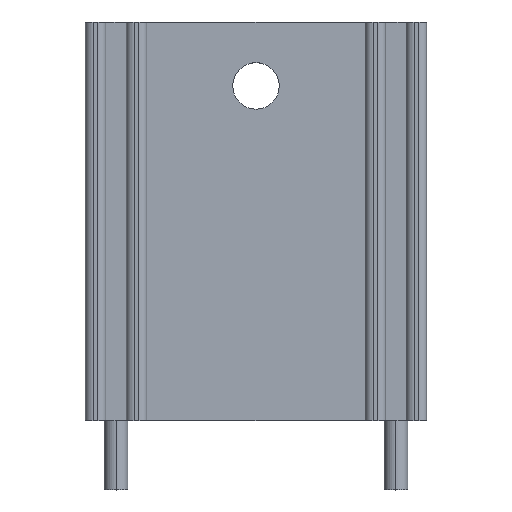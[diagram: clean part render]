
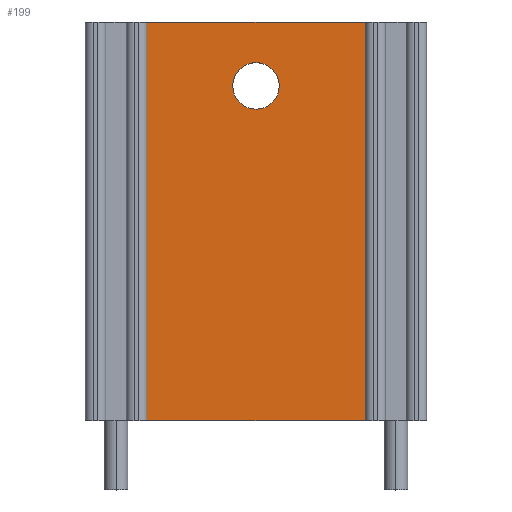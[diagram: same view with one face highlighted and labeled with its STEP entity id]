
A CAD part, top view. The second image highlights one B-rep face of the part: STEP entity #199.
In plain terms, the highlighted planar face has unit normal (0, 0, 1).
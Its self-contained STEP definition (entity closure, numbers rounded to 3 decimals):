
#1 = DIRECTION ( 'NONE',  ( 1., 0., 0. ) ) ;
#2 = DIRECTION ( 'NONE',  ( 0., 0., -1. ) ) ;
#3 = AXIS2_PLACEMENT_3D ( 'NONE', #4, #2, #1 ) ;
#4 = CARTESIAN_POINT ( 'NONE',  ( 0., 16.925, 0. ) ) ;
#5 = CIRCLE ( 'NONE', #3, 1.175 ) ;
#11 = EDGE_CURVE ( 'NONE', #15, #20, #5, .T. ) ;
#15 = VERTEX_POINT ( 'NONE', #1479 ) ;
#20 = VERTEX_POINT ( 'NONE', #1477 ) ;
#189 = EDGE_LOOP ( 'NONE', ( #200, #198 ) ) ;
#194 = EDGE_CURVE ( 'NONE', #441, #219, #869, .T. ) ;
#197 = ORIENTED_EDGE ( 'NONE', *, *, #194, .T. ) ;
#198 = ORIENTED_EDGE ( 'NONE', *, *, #202, .T. ) ;
#199 = ADVANCED_FACE ( 'NONE', ( #878, #833 ), #877, .T. ) ;
#200 = ORIENTED_EDGE ( 'NONE', *, *, #11, .T. ) ;
#202 = EDGE_CURVE ( 'NONE', #20, #15, #856, .T. ) ;
#203 = ORIENTED_EDGE ( 'NONE', *, *, #207, .F. ) ;
#206 = EDGE_CURVE ( 'NONE', #375, #441, #888, .T. ) ;
#207 = EDGE_CURVE ( 'NONE', #380, #219, #839, .T. ) ;
#208 = ORIENTED_EDGE ( 'NONE', *, *, #206, .T. ) ;
#209 = ORIENTED_EDGE ( 'NONE', *, *, #443, .T. ) ;
#210 = EDGE_LOOP ( 'NONE', ( #209, #208, #197, #203 ) ) ;
#219 = VERTEX_POINT ( 'NONE', #894 ) ;
#375 = VERTEX_POINT ( 'NONE', #1043 ) ;
#380 = VERTEX_POINT ( 'NONE', #1123 ) ;
#441 = VERTEX_POINT ( 'NONE', #1792 ) ;
#443 = EDGE_CURVE ( 'NONE', #380, #375, #1761, .T. ) ;
#833 = FACE_OUTER_BOUND ( 'NONE', #210, .T. ) ;
#839 = LINE ( 'NONE', #935, #933 ) ;
#856 = CIRCLE ( 'NONE', #892, 1.175 ) ;
#864 = DIRECTION ( 'NONE',  ( 0., 1., 0. ) ) ;
#865 = VECTOR ( 'NONE', #864, 1000. ) ;
#866 = CARTESIAN_POINT ( 'NONE',  ( 5.525, 0., 0. ) ) ;
#869 = LINE ( 'NONE', #866, #865 ) ;
#877 = PLANE ( 'NONE',  #898 ) ;
#878 = FACE_BOUND ( 'NONE', #189, .T. ) ;
#883 = DIRECTION ( 'NONE',  ( 1., 0., 0. ) ) ;
#884 = VECTOR ( 'NONE', #883, 1000. ) ;
#887 = CARTESIAN_POINT ( 'NONE',  ( 0., 0., 0. ) ) ;
#888 = LINE ( 'NONE', #887, #884 ) ;
#889 = DIRECTION ( 'NONE',  ( 1., 0., 0. ) ) ;
#890 = DIRECTION ( 'NONE',  ( 0., 0., -1. ) ) ;
#891 = CARTESIAN_POINT ( 'NONE',  ( 0., 16.925, 0. ) ) ;
#892 = AXIS2_PLACEMENT_3D ( 'NONE', #891, #890, #889 ) ;
#894 = CARTESIAN_POINT ( 'NONE',  ( 5.525, 20.15, 0. ) ) ;
#895 = DIRECTION ( 'NONE',  ( 1., 0., 0. ) ) ;
#896 = DIRECTION ( 'NONE',  ( 0., 0., 1. ) ) ;
#897 = CARTESIAN_POINT ( 'NONE',  ( -5.525, 0., 0. ) ) ;
#898 = AXIS2_PLACEMENT_3D ( 'NONE', #897, #896, #895 ) ;
#932 = DIRECTION ( 'NONE',  ( 1., 0., 0. ) ) ;
#933 = VECTOR ( 'NONE', #932, 1000. ) ;
#935 = CARTESIAN_POINT ( 'NONE',  ( 0., 20.15, 0. ) ) ;
#1043 = CARTESIAN_POINT ( 'NONE',  ( -5.525, 0., 0. ) ) ;
#1123 = CARTESIAN_POINT ( 'NONE',  ( -5.525, 20.15, 0. ) ) ;
#1477 = CARTESIAN_POINT ( 'NONE',  ( -1.175, 16.925, 0. ) ) ;
#1479 = CARTESIAN_POINT ( 'NONE',  ( 1.175, 16.925, 0. ) ) ;
#1761 = LINE ( 'NONE', #1790, #1789 ) ;
#1788 = DIRECTION ( 'NONE',  ( 0., -1., 0. ) ) ;
#1789 = VECTOR ( 'NONE', #1788, 1000. ) ;
#1790 = CARTESIAN_POINT ( 'NONE',  ( -5.525, 0., 0. ) ) ;
#1792 = CARTESIAN_POINT ( 'NONE',  ( 5.525, 0., 0. ) ) ;
